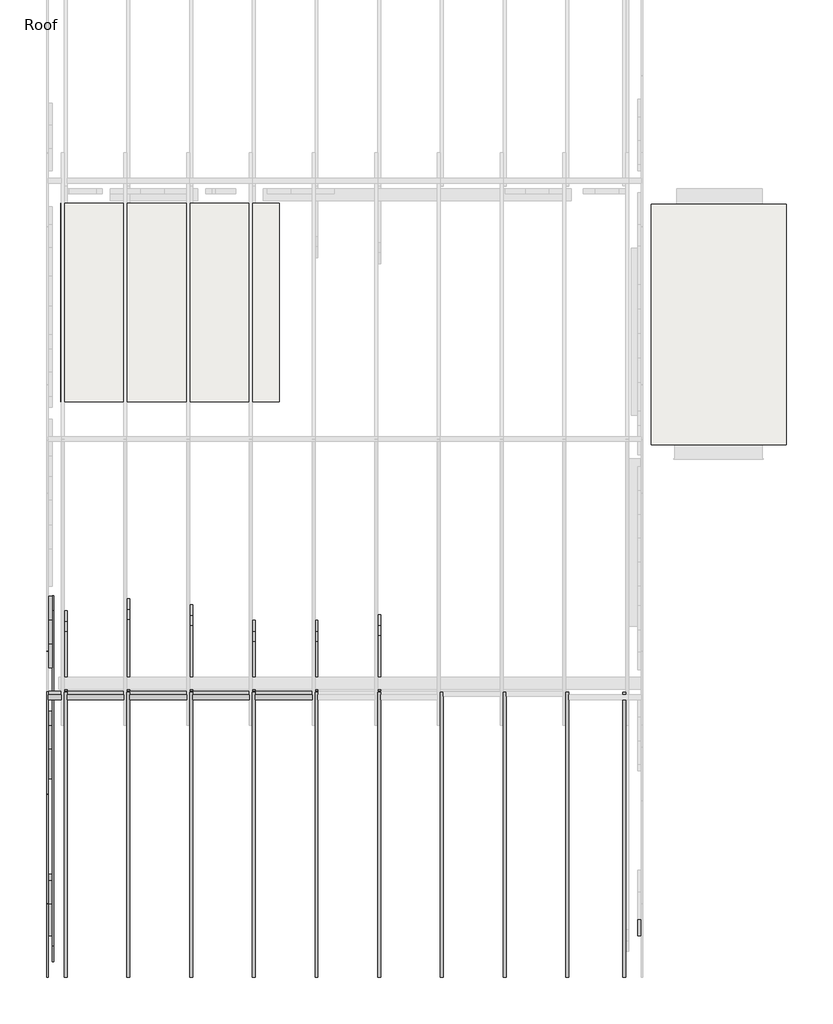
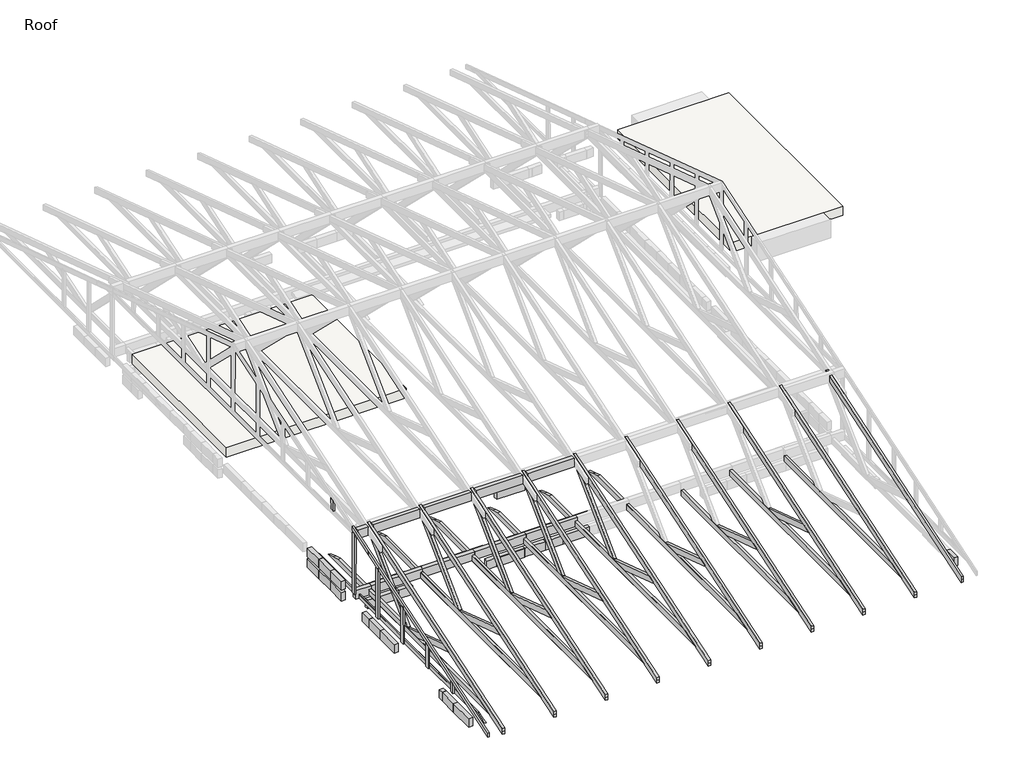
# One storey, part 1 of 5: 84 beams, 2 roofs.
"""IFC4 building model written with IfcOpenShell, lengths in millimetres."""

from ifc_helpers import new_model, si_unit, frame, origin, place, context, project, spatial, polyline, outline, extrude, faceted_brep, transform, mapped, element, save
from components import beam_51437148, beam_e763cc3c, beam_1adaeaea, beam_220cac48, beam_90ec22d7, experttrusspart_2_x_4_22083bb8, beam_02d80ba5, beam_1bebb228, beam_b49cdb40, beam_74c60bf1, beam_a2527db5, beam_e62cedd2, beam_8e5e3f5a, beam_69d239ac, beam_901ff6e2, beam_1c1e8c08, beam_fc46719c, beam_fde2ab11, beam_40d0c6fd, beam_1a8eef9e, beam_66fce4dd, beam_9d6aa0d6, beam_97ee1fa4, beam_51b55d0f, beam_aca249a6, beam_bb747b8e

model = new_model("IFC4")

# Units and contexts
model_context = context("Model", 3, world=origin())
ifc_project = project(units=[si_unit("LENGTHUNIT", "METRE", prefix="MILLI")], contexts=[model_context])

# Site, building, storey
site = spatial("IfcSite", under=ifc_project)
building = spatial("IfcBuilding", under=site)
storey = spatial("IfcBuildingStorey", under=building, Name="Roof", Elevation=4267.2)

# Beams
placement = place(None, origin())
element("IfcBeam", 1, ObjectType="BraceBeam : 1\" x 3\"", at=placement, inside=storey, context=model_context, shape_type="SweptSolid", body=[
    extrude(outline(polyline([(1168.5533714, 0.0), (1168.5533714, -63.5), (176.1684028, -63.5), (165.8055555, -31.75), (176.1684028, 0.0), (1168.5533714, 0.0)])), frame((-11532.8540766, -25190.9933406, 3689.5350943), z_axis=(1.0, 2.0901824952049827e-12, 0.0), x_axis=(0.0, 0.000999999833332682, -0.9999995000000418)), (0.0, 0.0, 1.0), 19.05),
])
element("IfcBeam", 2, ObjectType="BraceBeam : 1\" x 3\"", at=placement, inside=storey, context=model_context, shape_type="Brep", body=[
    faceted_brep([(-11513.8039672, -28842.1891964, 2355.771731), (-11532.8539672, -28842.1891964, 2355.771731), (-11532.8539672, -25190.8609334, 3547.5247057), (-11513.8039672, -25190.8609334, 3547.5247057), (-11532.8539672, -28842.1891964, 2389.1701007), (-11532.8539672, -28842.1891964, 2422.5684705), (-11532.8539672, -25190.8609334, 3614.3214452), (-11532.8539672, -25190.8609334, 3580.9230754), (-11513.8039672, -28842.1891964, 2422.5684705), (-11513.8039672, -25190.8609334, 3614.3214452), (-11513.8039672, -28842.1891964, 2389.1701007), (-11513.8039672, -25190.8609334, 3580.9230754)], [[[0, 1, 2, 3]], [[4, 5, 6, 7, 2, 1]], [[5, 8, 9, 6]], [[10, 0, 3, 11, 9, 8]], [[8, 5, 4, 1, 0, 10]], [[6, 9, 11, 3, 2, 7]]]),
])
element("IfcBeam", 3, ObjectType="BraceBeam : 1\" x 3\"", at=placement, inside=storey, context=model_context, shape_type="Brep", body=[
    faceted_brep([(-11443.9539672, -28639.6920583, 2438.4434705), (-11463.0039672, -28639.6920583, 2438.4434705), (-11463.0039672, -23960.8933557, 2438.4434705), (-11443.9539672, -23960.8933557, 2438.4434705), (-11463.0039672, -28542.4154625, 2470.1934705), (-11463.0039672, -28445.1388668, 2501.9434705), (-11463.0039672, -24155.4465472, 2501.9434705), (-11463.0039672, -24058.1699515, 2470.1934705), (-11443.9539672, -28445.1388668, 2501.9434705), (-11443.9539672, -24155.4465472, 2501.9434705), (-11443.9539672, -28542.4154625, 2470.1934705), (-11443.9539672, -24058.1699515, 2470.1934705)], [[[0, 1, 2, 3]], [[4, 5, 6, 7, 2, 1]], [[5, 8, 9, 6]], [[10, 0, 3, 11, 9, 8]], [[8, 5, 4, 1, 0, 10]], [[6, 9, 11, 3, 2, 7]]]),
    faceted_brep([(-11443.9539672, -28639.6920583, 2438.4434705), (-11463.0039672, -28639.6920583, 2438.4434705), (-11463.0039672, -25160.7763369, 2438.4434705), (-11443.9539672, -25160.7763369, 2438.4434705), (-11443.9539672, -28445.1388668, 2501.9434705), (-11463.0039672, -28445.1388668, 2501.9434705), (-11463.0039672, -28542.4154625, 2470.1934705), (-11443.9539672, -28542.4154625, 2470.1934705), (-11463.0039672, -25160.7763369, 2501.9434705), (-11443.9539672, -25160.7763369, 2501.9434705)], [[[0, 1, 2, 3]], [[4, 5, 6, 1, 0, 7]], [[6, 5, 8, 2, 1]], [[7, 0, 3, 9, 4]], [[5, 4, 9, 8]], [[3, 2, 8, 9]]]),
])
beam_shape = beam_51437148(model_context)
element("IfcBeam", 4, ObjectType="BraceBeam : 1\" x 3\"", at=placement, inside=storey, context=model_context, shape_type="MappedRepresentation", body=[
    mapped(beam_shape, transform((-11523.3290766, -24644.0985149, 3632.8478118), x_axis=(0.0, 0.01141734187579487, 0.9999348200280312), y_axis=(-1.0, 0.0, 0.0), z_axis=(0.0, -0.9999348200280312, 0.01141734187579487))),
])
beam_2_shape = beam_e763cc3c(model_context)
element("IfcBeam", 5, ObjectType="BraceBeam : 1\" x 3\"", at=placement, inside=storey, context=model_context, shape_type="MappedRepresentation", body=[
    mapped(beam_2_shape, transform((-11523.3289672, -25856.0890106, 2916.9482119), x_axis=(0.0, -0.0006656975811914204, 0.9999997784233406), y_axis=(1.0, 0.0, 0.0), z_axis=(0.0, 0.9999997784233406, 0.0006656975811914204))),
])
beam_3_shape = beam_1adaeaea(model_context)
element("IfcBeam", 6, ObjectType="BraceBeam : 1\" x 3\"", at=placement, inside=storey, context=model_context, shape_type="MappedRepresentation", body=[
    mapped(beam_3_shape, transform((-11523.3289672, -26528.2622172, 2807.1057512), x_axis=(0.0, -0.00356589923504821, 0.9999936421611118), y_axis=(1.0, 0.0, 0.0), z_axis=(0.0, 0.9999936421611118, 0.00356589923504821))),
])
beam_4_shape = beam_220cac48(model_context)
element("IfcBeam", 7, ObjectType="BraceBeam : 1\" x 3\"", at=placement, inside=storey, context=model_context, shape_type="MappedRepresentation", body=[
    mapped(beam_4_shape, transform((-11523.3289672, -27197.3036991, 2698.2854506), x_axis=(0.0, 0.0044995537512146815, 0.999989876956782), y_axis=(-1.0, 0.0, 0.0), z_axis=(0.0, -0.999989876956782, 0.0044995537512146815))),
])
beam_5_shape = beam_90ec22d7(model_context)
element("IfcBeam", 8, ObjectType="BraceBeam : 1\" x 3\"", at=placement, inside=storey, context=model_context, shape_type="MappedRepresentation", body=[
    mapped(beam_5_shape, transform((-11523.3289672, -27869.4769057, 2588.4429899), x_axis=(0.0, 0.0010344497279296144, 0.9999994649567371), y_axis=(-1.0, 0.0, 0.0), z_axis=(0.0, -0.9999994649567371, 0.0010344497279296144))),
])
element("IfcBeam", 9, ObjectType="ExpertTrussPart : 2 x 4", at=placement, inside=storey, context=model_context, shape_type="SweptSolid", body=[
    extrude(outline(polyline([(-24424.7508985, 2527.3434705), (-24288.5636645, 2482.8934705), (-24152.3764304, 2438.4434705), (-28507.0355222, 2438.4434705), (-28370.8482881, 2482.8934705), (-28234.6610541, 2527.3434705), (-24424.7508985, 2527.3434705)])), frame((-11308.6989672, 0.0, 0.0), z_axis=(1.0, 0.0, 0.0), x_axis=(0.0, 1.0, 0.0)), (0.0, 0.0, 1.0), 38.1),
    extrude(outline(polyline([(-25160.7763369, 2438.4434705), (-28507.0355222, 2438.4434705), (-28370.8482881, 2482.8934705), (-28234.6610541, 2527.3434705), (-25160.7763369, 2527.3434705), (-25160.7763369, 2438.4434705)])), frame((-11308.6989672, 0.0, 0.0), z_axis=(1.0, 0.0, 0.0), x_axis=(0.0, 1.0, 0.0)), (0.0, 0.0, 1.0), 38.1),
])
element("IfcBeam", 10, ObjectType="ExpertTrussPart : 2 x 4", at=placement, inside=storey, context=model_context, shape_type="SweptSolid", body=[
    extrude(outline(polyline([(-25364.2857159, 3455.8683395), (-25197.3557894, 3510.3524128), (-25197.3557894, 3494.8997017), (-26185.4983234, 2527.3434705), (-26294.428123, 2527.3434705), (-26296.112504, 2543.4546095), (-25364.2857159, 3455.8683395)])), frame((-11308.6989672, 0.0, 0.0), z_axis=(1.0, 0.0, 0.0), x_axis=(0.0, 1.0, 0.0)), (0.0, 0.0, 1.0), 38.1),
])
element("IfcBeam", 11, ObjectType="ExpertTrussPart : 2 x 4", at=placement, inside=storey, context=model_context, shape_type="SweptSolid", body=[
    extrude(outline(polyline([(-27261.0093615, 2845.1325646), (-26294.677913, 2529.7327168), (-26294.428123, 2527.3434705), (-26573.8730452, 2527.3434705), (-27404.2670497, 2798.3748469), (-27332.6382056, 2821.7537058), (-27261.0093615, 2845.1325646)])), frame((-11308.6989672, 0.0, 0.0), z_axis=(1.0, 0.0, 0.0), x_axis=(0.0, 1.0, 0.0)), (0.0, 0.0, 1.0), 38.1),
])
element("IfcBeam", 12, ObjectType="ExpertTrussPart : 2 x 4", at=placement, inside=storey, context=model_context, shape_type="SweptSolid", body=[
    extrude(outline(polyline([(-24272.3508985, 2527.3434705), (-24136.1636645, 2482.8934705), (-23999.9764304, 2438.4434705), (-28507.0355222, 2438.4434705), (-28370.8482881, 2482.8934705), (-28234.6610541, 2527.3434705), (-24272.3508985, 2527.3434705)])), frame((-10506.9056339, 0.0, 0.0), z_axis=(1.0, 0.0, 0.0), x_axis=(0.0, 1.0, 0.0)), (0.0, 0.0, 1.0), 38.1),
    extrude(outline(polyline([(-25160.7763369, 2438.4434705), (-28507.0355222, 2438.4434705), (-28370.8482881, 2482.8934705), (-28234.6610541, 2527.3434705), (-25160.7763369, 2527.3434705), (-25160.7763369, 2438.4434705)])), frame((-10506.9056339, 0.0, 0.0), z_axis=(1.0, 0.0, 0.0), x_axis=(0.0, 1.0, 0.0)), (0.0, 0.0, 1.0), 38.1),
])
element("IfcBeam", 13, ObjectType="ExpertTrussPart : 2 x 4", at=placement, inside=storey, context=model_context, shape_type="SweptSolid", body=[
    extrude(outline(polyline([(-25364.2857159, 3455.8683395), (-25197.3557894, 3510.3524128), (-25197.3557894, 3494.8997017), (-26185.4983234, 2527.3434705), (-26294.428123, 2527.3434705), (-26296.112504, 2543.4546095), (-25364.2857159, 3455.8683395)])), frame((-10506.9056339, 0.0, 0.0), z_axis=(1.0, 0.0, 0.0), x_axis=(0.0, 1.0, 0.0)), (0.0, 0.0, 1.0), 38.1),
])
element("IfcBeam", 14, ObjectType="ExpertTrussPart : 2 x 4", at=placement, inside=storey, context=model_context, shape_type="SweptSolid", body=[
    extrude(outline(polyline([(-27261.0093615, 2845.1325646), (-26294.677913, 2529.7327168), (-26294.428123, 2527.3434705), (-26573.8730452, 2527.3434705), (-27404.2670497, 2798.3748469), (-27332.6382056, 2821.7537058), (-27261.0093615, 2845.1325646)])), frame((-10506.9056339, 0.0, 0.0), z_axis=(1.0, 0.0, 0.0), x_axis=(0.0, 1.0, 0.0)), (0.0, 0.0, 1.0), 38.1),
])
element("IfcBeam", 15, ObjectType="ExpertTrussPart : 2 x 4", at=placement, inside=storey, context=model_context, shape_type="SweptSolid", body=[
    extrude(outline(polyline([(-24348.5508985, 2527.3434705), (-24212.3636645, 2482.8934705), (-24076.1764304, 2438.4434705), (-28507.0355222, 2438.4434705), (-28370.8482881, 2482.8934705), (-28234.6610541, 2527.3434705), (-24348.5508985, 2527.3434705)])), frame((-9705.1123005, 0.0, 0.0), z_axis=(1.0, 0.0, 0.0), x_axis=(0.0, 1.0, 0.0)), (0.0, 0.0, 1.0), 38.1),
    extrude(outline(polyline([(-25160.7763369, 2438.4434705), (-28507.0355222, 2438.4434705), (-28370.8482881, 2482.8934705), (-28234.6610541, 2527.3434705), (-25160.7763369, 2527.3434705), (-25160.7763369, 2438.4434705)])), frame((-9705.1123005, 0.0, 0.0), z_axis=(1.0, 0.0, 0.0), x_axis=(0.0, 1.0, 0.0)), (0.0, 0.0, 1.0), 38.1),
])
element("IfcBeam", 16, ObjectType="ExpertTrussPart : 2 x 4", at=placement, inside=storey, context=model_context, shape_type="SweptSolid", body=[
    extrude(outline(polyline([(-25364.2857159, 3455.8683395), (-25197.3557894, 3510.3524128), (-25197.3557894, 3494.8997017), (-26185.4983234, 2527.3434705), (-26294.428123, 2527.3434705), (-26296.112504, 2543.4546095), (-25364.2857159, 3455.8683395)])), frame((-9705.1123005, 0.0, 0.0), z_axis=(1.0, 0.0, 0.0), x_axis=(0.0, 1.0, 0.0)), (0.0, 0.0, 1.0), 38.1),
])
element("IfcBeam", 17, ObjectType="ExpertTrussPart : 2 x 4", at=placement, inside=storey, context=model_context, shape_type="SweptSolid", body=[
    extrude(outline(polyline([(-27261.0093615, 2845.1325646), (-26294.677913, 2529.7327168), (-26294.428123, 2527.3434705), (-26573.8730452, 2527.3434705), (-27404.2670497, 2798.3748469), (-27332.6382056, 2821.7537058), (-27261.0093615, 2845.1325646)])), frame((-9705.1123005, 0.0, 0.0), z_axis=(1.0, 0.0, 0.0), x_axis=(0.0, 1.0, 0.0)), (0.0, 0.0, 1.0), 38.1),
])
element("IfcBeam", 18, ObjectType="ExpertTrussPart : 2 x 4", at=placement, inside=storey, context=model_context, shape_type="SweptSolid", body=[
    extrude(outline(polyline([(-25364.2857159, 3455.8683395), (-25197.3557894, 3510.3524128), (-25197.3557894, 3494.8997017), (-26185.4983234, 2527.3434705), (-26294.428123, 2527.3434705), (-26296.112504, 2543.4546095), (-25364.2857159, 3455.8683395)])), frame((-8903.3189672, 0.0, 0.0), z_axis=(1.0, 0.0, 0.0), x_axis=(0.0, 1.0, 0.0)), (0.0, 0.0, 1.0), 38.1),
])
element("IfcBeam", 19, ObjectType="ExpertTrussPart : 2 x 4", at=placement, inside=storey, context=model_context, shape_type="SweptSolid", body=[
    extrude(outline(polyline([(-27261.0093615, 2845.1325646), (-26294.677913, 2529.7327168), (-26294.428123, 2527.3434705), (-26573.8730452, 2527.3434705), (-27404.2670497, 2798.3748469), (-27332.6382056, 2821.7537058), (-27261.0093615, 2845.1325646)])), frame((-8903.3189672, 0.0, 0.0), z_axis=(1.0, 0.0, 0.0), x_axis=(0.0, 1.0, 0.0)), (0.0, 0.0, 1.0), 38.1),
])
element("IfcBeam", 20, ObjectType="ExpertTrussPart : 2 x 4", at=placement, inside=storey, context=model_context, shape_type="SweptSolid", body=[
    extrude(outline(polyline([(-24551.7508985, 2527.3434705), (-24415.5636645, 2482.8934705), (-24279.3764304, 2438.4434705), (-28507.0355222, 2438.4434705), (-28370.8482881, 2482.8934705), (-28234.6610541, 2527.3434705), (-24551.7508985, 2527.3434705)])), frame((-8101.5256339, 0.0, 0.0), z_axis=(1.0, 0.0, 0.0), x_axis=(0.0, 1.0, 0.0)), (0.0, 0.0, 1.0), 38.1),
    extrude(outline(polyline([(-25160.7763369, 2438.4434705), (-28507.0355222, 2438.4434705), (-28370.8482881, 2482.8934705), (-28234.6610541, 2527.3434705), (-25160.7763369, 2527.3434705), (-25160.7763369, 2438.4434705)])), frame((-8101.5256339, 0.0, 0.0), z_axis=(1.0, 0.0, 0.0), x_axis=(0.0, 1.0, 0.0)), (0.0, 0.0, 1.0), 38.1),
])
element("IfcBeam", 21, ObjectType="ExpertTrussPart : 2 x 4", at=placement, inside=storey, context=model_context, shape_type="SweptSolid", body=[
    extrude(outline(polyline([(-25364.2857159, 3455.8683395), (-25197.3557894, 3510.3524128), (-25197.3557894, 3494.8997017), (-26185.4983234, 2527.3434705), (-26294.428123, 2527.3434705), (-26296.112504, 2543.4546095), (-25364.2857159, 3455.8683395)])), frame((-8101.5256339, 0.0, 0.0), z_axis=(1.0, 0.0, 0.0), x_axis=(0.0, 1.0, 0.0)), (0.0, 0.0, 1.0), 38.1),
])
element("IfcBeam", 22, ObjectType="ExpertTrussPart : 2 x 4", at=placement, inside=storey, context=model_context, shape_type="SweptSolid", body=[
    extrude(outline(polyline([(-27261.0093615, 2845.1325646), (-26294.677913, 2529.7327168), (-26294.428123, 2527.3434705), (-26573.8730452, 2527.3434705), (-27404.2670497, 2798.3748469), (-27332.6382056, 2821.7537058), (-27261.0093615, 2845.1325646)])), frame((-8101.5256339, 0.0, 0.0), z_axis=(1.0, 0.0, 0.0), x_axis=(0.0, 1.0, 0.0)), (0.0, 0.0, 1.0), 38.1),
])
element("IfcBeam", 23, ObjectType="ExpertTrussPart : 2 x 4", at=placement, inside=storey, context=model_context, shape_type="SweptSolid", body=[
    extrude(outline(polyline([(-24475.5508985, 2527.3434705), (-24339.3636645, 2482.8934705), (-24203.1764304, 2438.4434705), (-28507.0355222, 2438.4434705), (-28370.8482881, 2482.8934705), (-28234.6610541, 2527.3434705), (-24475.5508985, 2527.3434705)])), frame((-7299.7323005, 0.0, 0.0), z_axis=(1.0, 0.0, 0.0), x_axis=(0.0, 1.0, 0.0)), (0.0, 0.0, 1.0), 38.1),
    extrude(outline(polyline([(-25160.7763369, 2438.4434705), (-28507.0355222, 2438.4434705), (-28370.8482881, 2482.8934705), (-28234.6610541, 2527.3434705), (-25160.7763369, 2527.3434705), (-25160.7763369, 2438.4434705)])), frame((-7299.7323005, 0.0, 0.0), z_axis=(1.0, 0.0, 0.0), x_axis=(0.0, 1.0, 0.0)), (0.0, 0.0, 1.0), 38.1),
])
element("IfcBeam", 24, ObjectType="ExpertTrussPart : 2 x 4", at=placement, inside=storey, context=model_context, shape_type="SweptSolid", body=[
    extrude(outline(polyline([(-27261.0093615, 2845.1325646), (-26294.677913, 2529.7327168), (-26294.428123, 2527.3434705), (-26573.8730452, 2527.3434705), (-27404.2670497, 2798.3748469), (-27332.6382056, 2821.7537058), (-27261.0093615, 2845.1325646)])), frame((-7299.7323005, 0.0, 0.0), z_axis=(1.0, 0.0, 0.0), x_axis=(0.0, 1.0, 0.0)), (0.0, 0.0, 1.0), 38.1),
])
element("IfcBeam", 25, ObjectType="ExpertTrussPart : 2 x 4", at=placement, inside=storey, context=model_context, shape_type="SweptSolid", body=[
    extrude(outline(polyline([(-25329.4340251, 2527.3434705), (-25329.4340251, 2482.8934705), (-25329.4340251, 2438.4434705), (-28507.0355222, 2438.4434705), (-28370.8482881, 2482.8934705), (-28234.6610541, 2527.3434705), (-25329.4340251, 2527.3434705)])), frame((-6497.9389672, 0.0, 0.0), z_axis=(1.0, 0.0, 0.0), x_axis=(0.0, 1.0, 0.0)), (0.0, 0.0, 1.0), 38.1),
])
element("IfcBeam", 26, ObjectType="ExpertTrussPart : 2 x 4", at=placement, inside=storey, context=model_context, shape_type="SweptSolid", body=[
    extrude(outline(polyline([(-27261.0093615, 2845.1325646), (-26294.677913, 2529.7327168), (-26294.428123, 2527.3434705), (-26573.8730452, 2527.3434705), (-27404.2670497, 2798.3748469), (-27332.6382056, 2821.7537058), (-27261.0093615, 2845.1325646)])), frame((-6497.9389672, 0.0, 0.0), z_axis=(1.0, 0.0, 0.0), x_axis=(0.0, 1.0, 0.0)), (0.0, 0.0, 1.0), 38.1),
])
element("IfcBeam", 27, ObjectType="ExpertTrussPart : 2 x 4", at=placement, inside=storey, context=model_context, shape_type="SweptSolid", body=[
    extrude(outline(polyline([(-25196.6136645, 2527.3434705), (-25196.6136645, 2482.8934705), (-25196.6136645, 2438.4434705), (-28507.0355222, 2438.4434705), (-28370.8482881, 2482.8934705), (-28234.6610541, 2527.3434705), (-25196.6136645, 2527.3434705)])), frame((-5696.1456339, 0.0, 0.0), z_axis=(1.0, 0.0, 0.0), x_axis=(0.0, 1.0, 0.0)), (0.0, 0.0, 1.0), 38.1),
])
element("IfcBeam", 28, ObjectType="ExpertTrussPart : 2 x 4", at=placement, inside=storey, context=model_context, shape_type="SweptSolid", body=[
    extrude(outline(polyline([(-27261.0093615, 2845.1325646), (-26294.677913, 2529.7327168), (-26294.428123, 2527.3434705), (-26573.8730452, 2527.3434705), (-27404.2670497, 2798.3748469), (-27332.6382056, 2821.7537058), (-27261.0093615, 2845.1325646)])), frame((-5696.1456339, 0.0, 0.0), z_axis=(1.0, 0.0, 0.0), x_axis=(0.0, 1.0, 0.0)), (0.0, 0.0, 1.0), 38.1),
])
element("IfcBeam", 29, ObjectType="ExpertTrussPart : 2 x 4", at=placement, inside=storey, context=model_context, shape_type="SweptSolid", body=[
    extrude(outline(polyline([(-25329.4340251, 2527.3434705), (-25329.4340251, 2482.8934705), (-25329.4340251, 2438.4434705), (-28507.0355222, 2438.4434705), (-28370.8482881, 2482.8934705), (-28234.6610541, 2527.3434705), (-25329.4340251, 2527.3434705)])), frame((-4894.3523005, 0.0, 0.0), z_axis=(1.0, 0.0, 0.0), x_axis=(0.0, 1.0, 0.0)), (0.0, 0.0, 1.0), 38.1),
])
element("IfcBeam", 30, ObjectType="ExpertTrussPart : 2 x 4", at=placement, inside=storey, context=model_context, shape_type="SweptSolid", body=[
    extrude(outline(polyline([(-24551.7508985, 2527.3434705), (-24415.5636645, 2482.8934705), (-24279.3764304, 2438.4434705), (-28507.0355222, 2438.4434705), (-28370.8482881, 2482.8934705), (-28234.6610541, 2527.3434705), (-24551.7508985, 2527.3434705)])), frame((-8903.3189672, 0.0, 0.0), z_axis=(1.0, 0.0, 0.0), x_axis=(0.0, 1.0, 0.0)), (0.0, 0.0, 1.0), 38.1),
    extrude(outline(polyline([(-25160.7763369, 2438.4434705), (-28507.0355222, 2438.4434705), (-28370.8482881, 2482.8934705), (-28234.6610541, 2527.3434705), (-25160.7763369, 2527.3434705), (-25160.7763369, 2438.4434705)])), frame((-8903.3189672, 0.0, 0.0), z_axis=(1.0, 0.0, 0.0), x_axis=(0.0, 1.0, 0.0)), (0.0, 0.0, 1.0), 38.1),
])
experttrusspart_2_x_4_shape = experttrusspart_2_x_4_22083bb8(model_context)
element("IfcBeam", 31, ObjectType="ExpertTrussPart : 2 x 4", at=placement, inside=storey, context=model_context, shape_type="MappedRepresentation", body=[
    mapped(experttrusspart_2_x_4_shape, transform((-11289.6489672, -27005.9805455, 2920.0373882), x_axis=(0.0, -0.950645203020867, -0.31028003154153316), y_axis=(1.0000000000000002, 0.0, 0.0), z_axis=(0.0, -0.31028003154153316, 0.950645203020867))),
])
element("IfcBeam", 32, ObjectType="ExpertTrussPart : 2 x 4", at=placement, inside=storey, context=model_context, shape_type="MappedRepresentation", body=[
    mapped(experttrusspart_2_x_4_shape, transform((-10487.8556339, -27005.9805455, 2920.0373882), x_axis=(0.0, -0.950645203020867, -0.31028003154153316), y_axis=(1.0000000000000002, 0.0, 0.0), z_axis=(0.0, -0.31028003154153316, 0.950645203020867))),
])
element("IfcBeam", 33, ObjectType="ExpertTrussPart : 2 x 4", at=placement, inside=storey, context=model_context, shape_type="MappedRepresentation", body=[
    mapped(experttrusspart_2_x_4_shape, transform((-9686.0623005, -27005.9805455, 2920.0373882), x_axis=(0.0, -0.950645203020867, -0.31028003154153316), y_axis=(1.0000000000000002, 0.0, 0.0), z_axis=(0.0, -0.31028003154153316, 0.950645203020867))),
])
element("IfcBeam", 34, ObjectType="ExpertTrussPart : 2 x 4", at=placement, inside=storey, context=model_context, shape_type="MappedRepresentation", body=[
    mapped(experttrusspart_2_x_4_shape, transform((-8884.2689672, -27005.9805455, 2920.0373882), x_axis=(0.0, -0.950645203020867, -0.31028003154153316), y_axis=(1.0000000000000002, 0.0, 0.0), z_axis=(0.0, -0.31028003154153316, 0.950645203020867))),
])
element("IfcBeam", 35, ObjectType="ExpertTrussPart : 2 x 4", at=placement, inside=storey, context=model_context, shape_type="MappedRepresentation", body=[
    mapped(experttrusspart_2_x_4_shape, transform((-8082.4756339, -27005.9805455, 2920.0373882), x_axis=(0.0, -0.950645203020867, -0.31028003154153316), y_axis=(1.0000000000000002, 0.0, 0.0), z_axis=(0.0, -0.31028003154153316, 0.950645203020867))),
])
element("IfcBeam", 36, ObjectType="ExpertTrussPart : 2 x 4", at=placement, inside=storey, context=model_context, shape_type="MappedRepresentation", body=[
    mapped(experttrusspart_2_x_4_shape, transform((-7280.6823005, -27005.9805455, 2920.0373882), x_axis=(0.0, -0.950645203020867, -0.31028003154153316), y_axis=(1.0000000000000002, 0.0, 0.0), z_axis=(0.0, -0.31028003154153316, 0.950645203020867))),
])
element("IfcBeam", 37, ObjectType="ExpertTrussPart : 2 x 4", at=placement, inside=storey, context=model_context, shape_type="MappedRepresentation", body=[
    mapped(experttrusspart_2_x_4_shape, transform((-6478.8889672, -27005.9805455, 2920.0373882), x_axis=(0.0, -0.950645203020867, -0.31028003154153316), y_axis=(1.0000000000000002, 0.0, 0.0), z_axis=(0.0, -0.31028003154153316, 0.950645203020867))),
])
element("IfcBeam", 38, ObjectType="ExpertTrussPart : 2 x 4", at=placement, inside=storey, context=model_context, shape_type="MappedRepresentation", body=[
    mapped(experttrusspart_2_x_4_shape, transform((-5677.0956339, -27005.9805455, 2920.0373882), x_axis=(0.0, -0.950645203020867, -0.31028003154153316), y_axis=(1.0000000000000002, 0.0, 0.0), z_axis=(0.0, -0.31028003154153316, 0.950645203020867))),
])
element("IfcBeam", 39, ObjectType="ExpertTrussPart : 2 x 4", at=placement, inside=storey, context=model_context, shape_type="MappedRepresentation", body=[
    mapped(experttrusspart_2_x_4_shape, transform((-4875.3023005, -27005.9805455, 2920.0373882), x_axis=(0.0, -0.950645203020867, -0.31028003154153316), y_axis=(1.0000000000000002, 0.0, 0.0), z_axis=(0.0, -0.31028003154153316, 0.950645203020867))),
])
element("IfcBeam", 40, ObjectType="ExpertTrussPart : 2 x 4", at=placement, inside=storey, context=model_context, shape_type="MappedRepresentation", body=[
    mapped(experttrusspart_2_x_4_shape, transform((-4149.709186, -27005.9805455, 2920.0373882), x_axis=(0.0, -0.950645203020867, -0.31028003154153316), y_axis=(1.0000000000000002, 0.0, 0.0), z_axis=(0.0, -0.31028003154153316, 0.950645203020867))),
])
element("IfcBeam", 41, ObjectType="WallPlates : 6\" x 3\"", at=placement, inside=storey, context=model_context, shape_type="SweptSolid", body=[
    extrude(outline(polyline([(-9869.5513307, -25157.6013369), (-9869.5513307, -25094.1013369), (-9446.8790766, -25094.1013369), (-9446.8790766, -25157.6013369), (-9869.5513307, -25157.6013369)])), frame((0.0, 0.0, 2368.55), z_axis=(0.0, 0.0, 1.0), x_axis=(1.0, 0.0, 0.0)), (0.0, 0.0, 1.0), 139.7),
    extrude(outline(polyline([(-9819.4124099, -25094.1013369), (-9446.8790766, -25094.1013369), (-9446.8790766, -25157.6013369), (-9819.4124099, -25157.6013369), (-9819.4124099, -25094.1013369)])), frame((0.0, 0.0, 2368.55), z_axis=(0.0, 0.0, 1.0), x_axis=(1.0, 0.0, 0.0)), (0.0, 0.0, 1.0), 139.7),
])
beam_6_shape = beam_02d80ba5(model_context)
element("IfcBeam", 42, ObjectType="WallPlates : 6\" x 3\"", at=placement, inside=storey, context=model_context, shape_type="MappedRepresentation", body=[
    mapped(beam_6_shape, transform((-9050.6340766, -25125.8513369, 2438.4), x_axis=(1.0000000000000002, 0.0, 0.0), y_axis=(0.0, 0.0, -1.0000000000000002), z_axis=(0.0, 1.0000000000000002, 0.0))),
])
element("IfcBeam", 43, ObjectType="WallPlates : 6\" x 3\"", at=placement, inside=storey, context=model_context, shape_type="MappedRepresentation", body=[
    mapped(beam_6_shape, transform((-9050.6340766, -25125.8513369, 2209.8), x_axis=(1.0000000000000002, 0.0, 0.0), y_axis=(0.0, 0.0, -1.0000000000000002), z_axis=(0.0, 1.0000000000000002, 0.0))),
])
beam_7_shape = beam_1bebb228(model_context)
element("IfcBeam", 44, ObjectType="WallPlates : 6\" x 3\"", at=placement, inside=storey, context=model_context, shape_type="MappedRepresentation", body=[
    mapped(beam_7_shape, transform((-8671.3274099, -25125.8513369, 2438.4), x_axis=(1.0000000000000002, 0.0, 0.0), y_axis=(0.0, 0.0, -1.0000000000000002), z_axis=(0.0, 1.0000000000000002, 0.0))),
])
element("IfcBeam", 45, ObjectType="WallPlates : 6\" x 3\"", at=placement, inside=storey, context=model_context, shape_type="MappedRepresentation", body=[
    mapped(beam_7_shape, transform((-8671.3274099, -25125.8513369, 2209.8), x_axis=(1.0000000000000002, 0.0, 0.0), y_axis=(0.0, 0.0, -1.0000000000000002), z_axis=(0.0, 1.0000000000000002, 0.0))),
])
beam_8_shape = beam_b49cdb40(model_context)
element("IfcBeam", 46, ObjectType="WallPlates : 6\" x 3\"", at=placement, inside=storey, context=model_context, shape_type="MappedRepresentation", body=[
    mapped(beam_8_shape, transform((-8374.9990766, -25125.8513369, 2438.4), x_axis=(1.0000000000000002, 0.0, 0.0), y_axis=(0.0, 0.0, -1.0000000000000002), z_axis=(0.0, 1.0000000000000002, 0.0))),
])
element("IfcBeam", 47, ObjectType="WallPlates : 6\" x 3\"", at=placement, inside=storey, context=model_context, shape_type="MappedRepresentation", body=[
    mapped(beam_8_shape, transform((-8374.9990766, -25125.8513369, 2209.8), x_axis=(1.0000000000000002, 0.0, 0.0), y_axis=(0.0, 0.0, -1.0000000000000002), z_axis=(0.0, 1.0000000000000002, 0.0))),
])
beam_9_shape = beam_74c60bf1(model_context)
element("IfcBeam", 48, ObjectType="WallPlates : 6\" x 3\"", at=placement, inside=storey, context=model_context, shape_type="MappedRepresentation", body=[
    mapped(beam_9_shape, transform((-8502.4223005, -25262.3763369, 3534.0178481), x_axis=(-1.0000000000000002, 0.0, 0.0), y_axis=(0.0, 0.0, -1.0000000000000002), z_axis=(0.0, -1.0000000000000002, 0.0))),
])
element("IfcBeam", 49, ObjectType="WallPlates : 6\" x 3\"", at=placement, inside=storey, context=model_context, shape_type="MappedRepresentation", body=[
    mapped(beam_9_shape, transform((-9304.2156339, -25262.3763369, 3534.0178481), x_axis=(-1.0000000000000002, 0.0, 0.0), y_axis=(0.0, 0.0, -1.0000000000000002), z_axis=(0.0, -1.0000000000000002, 0.0))),
])
element("IfcBeam", 50, ObjectType="WallPlates : 6\" x 3\"", at=placement, inside=storey, context=model_context, shape_type="MappedRepresentation", body=[
    mapped(beam_9_shape, transform((-10106.0089672, -25262.3763369, 3534.0178481), x_axis=(-1.0000000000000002, 0.0, 0.0), y_axis=(0.0, 0.0, -1.0000000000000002), z_axis=(0.0, -1.0000000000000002, 0.0))),
])
element("IfcBeam", 51, ObjectType="WallPlates : 6\" x 3\"", at=placement, inside=storey, context=model_context, shape_type="MappedRepresentation", body=[
    mapped(beam_9_shape, transform((-10907.8023005, -25262.3763369, 3534.0178481), x_axis=(-1.0000000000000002, 0.0, 0.0), y_axis=(0.0, 0.0, -1.0000000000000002), z_axis=(0.0, -1.0000000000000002, 0.0))),
])
beam_10_shape = beam_a2527db5(model_context)
element("IfcBeam", 52, ObjectType="WallPlates : 6\" x 3\"", at=placement, inside=storey, context=model_context, shape_type="MappedRepresentation", body=[
    mapped(beam_10_shape, transform((-8464.3223005, -25217.9263369, 2508.2934705), x_axis=(-1.0000000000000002, 0.0, 0.0), y_axis=(0.0, 0.0, -1.0000000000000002), z_axis=(0.0, -1.0000000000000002, 0.0))),
])
element("IfcBeam", 53, ObjectType="WallPlates : 6\" x 3\"", at=placement, inside=storey, context=model_context, shape_type="MappedRepresentation", body=[
    mapped(beam_10_shape, transform((-9266.1156339, -25217.9263369, 2508.2934705), x_axis=(-1.0000000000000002, 0.0, 0.0), y_axis=(0.0, 0.0, -1.0000000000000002), z_axis=(0.0, -1.0000000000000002, 0.0))),
])
element("IfcBeam", 54, ObjectType="WallPlates : 6\" x 3\"", at=placement, inside=storey, context=model_context, shape_type="MappedRepresentation", body=[
    mapped(beam_10_shape, transform((-10067.9089672, -25217.9263369, 2508.2934705), x_axis=(-1.0000000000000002, 0.0, 0.0), y_axis=(0.0, 0.0, -1.0000000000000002), z_axis=(0.0, -1.0000000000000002, 0.0))),
])
element("IfcBeam", 55, ObjectType="WallPlates : 6\" x 3\"", at=placement, inside=storey, context=model_context, shape_type="MappedRepresentation", body=[
    mapped(beam_10_shape, transform((-10869.7023005, -25217.9263369, 2508.2934705), x_axis=(-1.0000000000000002, 0.0, 0.0), y_axis=(0.0, 0.0, -1.0000000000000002), z_axis=(0.0, -1.0000000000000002, 0.0))),
])
element("IfcBeam", 56, ObjectType="WallPlates : 6\" x 3\"", at=placement, inside=storey, context=model_context, shape_type="MappedRepresentation", body=[
    mapped(beam_6_shape, transform((-9050.6340766, -25125.8513369, 2203.45), x_axis=(1.0000000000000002, 0.0, 0.0), y_axis=(0.0, 0.0, -1.0000000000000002), z_axis=(0.0, 1.0000000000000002, 0.0))),
])
element("IfcBeam", 57, ObjectType="WallPlates : 6\" x 3\"", at=placement, inside=storey, context=model_context, shape_type="MappedRepresentation", body=[
    mapped(beam_6_shape, transform((-9050.6340766, -25125.8513369, 3311.006975), x_axis=(1.0000000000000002, 0.0, 0.0), y_axis=(0.0, 0.0, -1.0000000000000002), z_axis=(0.0, 1.0000000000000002, 0.0))),
])
beam_11_shape = beam_e62cedd2(model_context)
element("IfcBeam", 58, ObjectType="WallPlates : 6\" x 3\"", at=placement, inside=storey, context=model_context, shape_type="MappedRepresentation", body=[
    mapped(beam_11_shape, transform((-11494.7540766, -28107.1813369, 2266.95), x_axis=(0.0, -1.0000000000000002, 0.0), y_axis=(0.0, 0.0, -1.0000000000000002), z_axis=(1.0000000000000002, 0.0, 0.0))),
])
beam_12_shape = beam_8e5e3f5a(model_context)
element("IfcBeam", 59, ObjectType="WallPlates : 6\" x 3\"", at=placement, inside=storey, context=model_context, shape_type="MappedRepresentation", body=[
    mapped(beam_12_shape, transform((-11430.3015766, -25262.3763369, 3534.0178481), x_axis=(-1.0000000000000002, 0.0, 0.0), y_axis=(0.0, 0.0, -1.0000000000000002), z_axis=(0.0, -1.0000000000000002, 0.0))),
])
beam_13_shape = beam_69d239ac(model_context)
element("IfcBeam", 60, ObjectType="WallPlates : 6\" x 3\"", at=placement, inside=storey, context=model_context, shape_type="MappedRepresentation", body=[
    mapped(beam_13_shape, transform((-11392.2014672, -25217.9263369, 2508.2934705), x_axis=(-1.0000000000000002, 0.0, 0.0), y_axis=(0.0, 0.0, -1.0000000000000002), z_axis=(0.0, -1.0000000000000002, 0.0))),
])
beam_14_shape = beam_901ff6e2(model_context)
element("IfcBeam", 61, ObjectType="WallPlates : 6\" x 3\"", at=placement, inside=storey, context=model_context, shape_type="MappedRepresentation", body=[
    mapped(beam_14_shape, transform((-11494.7540766, -27561.0613369, 2266.95), x_axis=(0.0, -1.0000000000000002, 0.0), y_axis=(0.0, 0.0, -1.0000000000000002), z_axis=(1.0000000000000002, 0.0, 0.0))),
])
beam_15_shape = beam_1c1e8c08(model_context)
element("IfcBeam", 62, ObjectType="WallPlates : 6\" x 3\"", at=placement, inside=storey, context=model_context, shape_type="MappedRepresentation", body=[
    mapped(beam_15_shape, transform((-8030.4082433, -25125.8513369, 2438.4), x_axis=(1.0000000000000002, 0.0, 0.0), y_axis=(0.0, 0.0, -1.0000000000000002), z_axis=(0.0, 1.0000000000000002, 0.0))),
])
element("IfcBeam", 63, ObjectType="WallPlates : 6\" x 3\"", at=placement, inside=storey, context=model_context, shape_type="MappedRepresentation", body=[
    mapped(beam_15_shape, transform((-8030.4082433, -25125.8513369, 2209.8), x_axis=(1.0000000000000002, 0.0, 0.0), y_axis=(0.0, 0.0, -1.0000000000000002), z_axis=(0.0, 1.0000000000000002, 0.0))),
])
beam_16_shape = beam_fc46719c(model_context)
element("IfcBeam", 64, ObjectType="WallPlates : 6\" x 3\"", at=placement, inside=storey, context=model_context, shape_type="MappedRepresentation", body=[
    mapped(beam_16_shape, transform((-10685.1290766, -25125.8513369, 2209.8), x_axis=(1.0000000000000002, 0.0, 0.0), y_axis=(0.0, 0.0, -1.0000000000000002), z_axis=(0.0, 1.0000000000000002, 0.0))),
])
beam_17_shape = beam_fde2ab11(model_context)
element("IfcBeam", 65, ObjectType="WallPlates : 6\" x 3\"", at=placement, inside=storey, context=model_context, shape_type="MappedRepresentation", body=[
    mapped(beam_17_shape, transform((-9345.2790766, -25125.8513369, 2209.8), x_axis=(1.0000000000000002, 0.0, 0.0), y_axis=(0.0, 0.0, -1.0000000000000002), z_axis=(0.0, 1.0000000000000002, 0.0))),
])
beam_18_shape = beam_40d0c6fd(model_context)
element("IfcBeam", 66, ObjectType="WallPlates : 6\" x 3\"", at=placement, inside=storey, context=model_context, shape_type="MappedRepresentation", body=[
    mapped(beam_18_shape, transform((-10026.5152036, -25125.8513369, 2438.4), x_axis=(1.0000000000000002, 0.0, 0.0), y_axis=(0.0, 0.0, -1.0000000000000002), z_axis=(0.0, 1.0000000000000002, 0.0))),
])
beam_19_shape = beam_1a8eef9e(model_context)
element("IfcBeam", 67, ObjectType="WallPlates : 6\" x 3\"", at=placement, inside=storey, context=model_context, shape_type="MappedRepresentation", body=[
    mapped(beam_19_shape, transform((-10373.9790766, -25125.8513369, 2438.4), x_axis=(1.0000000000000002, 0.0, 0.0), y_axis=(0.0, 0.0, -1.0000000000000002), z_axis=(0.0, 1.0000000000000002, 0.0))),
])
beam_20_shape = beam_66fce4dd(model_context)
element("IfcBeam", 68, ObjectType="WallPlates : 6\" x 3\"", at=placement, inside=storey, context=model_context, shape_type="MappedRepresentation", body=[
    mapped(beam_20_shape, transform((-10729.5840639, -25125.8513369, 2438.4), x_axis=(1.0000000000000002, 0.0, 0.0), y_axis=(0.0, 0.0, -1.0000000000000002), z_axis=(0.0, 1.0000000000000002, 0.0))),
])
beam_21_shape = beam_9d6aa0d6(model_context)
element("IfcBeam", 69, ObjectType="WallPlates : 6\" x 3\"", at=placement, inside=storey, context=model_context, shape_type="MappedRepresentation", body=[
    mapped(beam_21_shape, transform((-11494.7540766, -24424.1763369, 2438.4), x_axis=(0.0, -1.0000000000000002, 0.0), y_axis=(0.0, 0.0, -1.0000000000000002), z_axis=(1.0000000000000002, 0.0, 0.0))),
])
element("IfcBeam", 70, ObjectType="WallPlates : 6\" x 3\"", at=placement, inside=storey, context=model_context, shape_type="MappedRepresentation", body=[
    mapped(beam_21_shape, transform((-10945.4790766, -25125.8513369, 2438.4), x_axis=(1.0000000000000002, 0.0, 0.0), y_axis=(0.0, 0.0, -1.0000000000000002), z_axis=(0.0, 1.0000000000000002, 0.0))),
])
element("IfcBeam", 71, ObjectType="WallPlates : 6\" x 3\"", at=placement, inside=storey, context=model_context, shape_type="MappedRepresentation", body=[
    mapped(beam_21_shape, transform((-11494.7540766, -24424.1763369, 2260.6), x_axis=(0.0, -1.0000000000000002, 0.0), y_axis=(0.0, 0.0, -1.0000000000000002), z_axis=(1.0000000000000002, 0.0, 0.0))),
])
element("IfcBeam", 72, ObjectType="WallPlates : 6\" x 3\"", at=placement, inside=storey, context=model_context, shape_type="MappedRepresentation", body=[
    mapped(beam_21_shape, transform((-11494.7540766, -25770.3763369, 2266.95), x_axis=(0.0, -1.0000000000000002, 0.0), y_axis=(0.0, 0.0, -1.0000000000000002), z_axis=(1.0000000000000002, 0.0, 0.0))),
])
element("IfcBeam", 73, ObjectType="WallPlates : 6\" x 3\"", at=placement, inside=storey, context=model_context, shape_type="MappedRepresentation", body=[
    mapped(beam_21_shape, transform((-11494.7540766, -27751.5763369, 2266.95), x_axis=(0.0, -1.0000000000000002, 0.0), y_axis=(0.0, 0.0, -1.0000000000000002), z_axis=(1.0000000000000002, 0.0, 0.0))),
])
element("IfcBeam", 74, ObjectType="WallPlates : 6\" x 3\"", at=placement, inside=storey, context=model_context, shape_type="MappedRepresentation", body=[
    mapped(beam_21_shape, transform((-10945.4790766, -25125.8513369, 2209.8), x_axis=(1.0000000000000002, 0.0, 0.0), y_axis=(0.0, 0.0, -1.0000000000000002), z_axis=(0.0, 1.0000000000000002, 0.0))),
])
beam_22_shape = beam_97ee1fa4(model_context)
element("IfcBeam", 75, ObjectType="WallPlates : 6\" x 3\"", at=placement, inside=storey, context=model_context, shape_type="MappedRepresentation", body=[
    mapped(beam_22_shape, transform((-9307.1790766, -25125.8513369, 2438.4), x_axis=(1.0000000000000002, 0.0, 0.0), y_axis=(0.0, 0.0, -1.0000000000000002), z_axis=(0.0, 1.0000000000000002, 0.0))),
])
beam_23_shape = beam_51b55d0f(model_context)
element("IfcBeam", 76, ObjectType="WallPlates : 6\" x 3\"", at=placement, inside=storey, context=model_context, shape_type="MappedRepresentation", body=[
    mapped(beam_23_shape, transform((-11186.7740766, -25125.8513369, 2438.4), x_axis=(1.0000000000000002, 0.0, 0.0), y_axis=(0.0, 0.0, -1.0000000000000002), z_axis=(0.0, 1.0000000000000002, 0.0))),
])
element("IfcBeam", 77, ObjectType="WallPlates : 6\" x 3\"", at=placement, inside=storey, context=model_context, shape_type="MappedRepresentation", body=[
    mapped(beam_23_shape, transform((-11494.7540766, -25529.0813369, 2266.95), x_axis=(0.0, -1.0000000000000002, 0.0), y_axis=(0.0, 0.0, -1.0000000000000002), z_axis=(1.0000000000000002, 0.0, 0.0))),
])
element("IfcBeam", 78, ObjectType="WallPlates : 6\" x 3\"", at=placement, inside=storey, context=model_context, shape_type="MappedRepresentation", body=[
    mapped(beam_23_shape, transform((-11186.7740766, -25125.8513369, 2209.8), x_axis=(1.0000000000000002, 0.0, 0.0), y_axis=(0.0, 0.0, -1.0000000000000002), z_axis=(0.0, 1.0000000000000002, 0.0))),
])
element("IfcBeam", 79, ObjectType="WallPlates : 6\" x 3\"", at=placement, inside=storey, context=model_context, shape_type="MappedRepresentation", body=[
    mapped(beam_21_shape, transform((-11494.7540766, -24728.9763369, 2438.4), x_axis=(0.0, -1.0000000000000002, 0.0), y_axis=(0.0, 0.0, -1.0000000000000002), z_axis=(1.0000000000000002, 0.0, 0.0))),
])
element("IfcBeam", 80, ObjectType="WallPlates : 6\" x 3\"", at=placement, inside=storey, context=model_context, shape_type="MappedRepresentation", body=[
    mapped(beam_21_shape, transform((-11494.7540766, -24728.9763369, 2260.6), x_axis=(0.0, -1.0000000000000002, 0.0), y_axis=(0.0, 0.0, -1.0000000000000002), z_axis=(1.0000000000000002, 0.0, 0.0))),
])
beam_24_shape = beam_aca249a6(model_context)
element("IfcBeam", 81, ObjectType="WallPlates : 6\" x 3\"", at=placement, inside=storey, context=model_context, shape_type="MappedRepresentation", body=[
    mapped(beam_24_shape, transform((-11494.7540766, -26113.2813369, 2266.95), x_axis=(0.0, -1.0000000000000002, 0.0), y_axis=(0.0, 0.0, -1.0000000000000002), z_axis=(1.0000000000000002, 0.0, 0.0))),
])
beam_25_shape = beam_bb747b8e(model_context)
element("IfcBeam", 82, ObjectType="WallPlates : 6\" x 3\"", at=placement, inside=storey, context=model_context, shape_type="MappedRepresentation", body=[
    mapped(beam_25_shape, transform((-3944.6040766, -28208.7713369, 2266.95), x_axis=(0.0, 1.0000000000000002, 0.0), y_axis=(0.0, 0.0, -1.0000000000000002), z_axis=(-1.0000000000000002, 0.0, 0.0))),
])
element("IfcBeam", 83, ObjectType="WallPlates : 6\" x 3\"", at=placement, inside=storey, context=model_context, shape_type="MappedRepresentation", body=[
    mapped(beam_21_shape, transform((-11494.7540766, -24119.3763369, 2438.4), x_axis=(0.0, -1.0000000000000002, 0.0), y_axis=(0.0, 0.0, -1.0000000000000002), z_axis=(1.0000000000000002, 0.0, 0.0))),
])
element("IfcBeam", 84, ObjectType="WallPlates : 6\" x 3\"", at=placement, inside=storey, context=model_context, shape_type="MappedRepresentation", body=[
    mapped(beam_21_shape, transform((-11494.7540766, -24119.3763369, 2260.6), x_axis=(0.0, -1.0000000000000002, 0.0), y_axis=(0.0, 0.0, -1.0000000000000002), z_axis=(1.0000000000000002, 0.0, 0.0))),
])

# Roofs
element("IfcRoof", 85, ObjectType="zGeneric - 16", at=placement, inside=storey, context=model_context, shape_type="SweptSolid", body=[
    extrude(outline(polyline([(-3806.8090766, -18961.9311548), (-2080.8592328, -18961.9311548), (-2080.8592328, -22034.9884775), (-3806.8090766, -22034.9884775), (-3806.8090766, -18961.9311548)])), frame((0.0, 0.0, 3505.2), z_axis=(0.0, 0.0, 1.0), x_axis=(1.0, 0.0, 0.0)), (0.0, 0.0, 1.0), 152.4),
])
element("IfcRoof", 86, ObjectType="zGeneric - 16", at=placement, inside=storey, context=model_context, shape_type="SweptSolid", body=[
    extrude(outline(polyline([(-11353.2990766, -18943.9763369), (-8555.7705933, -18943.9763369), (-8555.7705933, -21483.5216019), (-11353.2990766, -21483.5216019), (-11353.2990766, -18943.9763369)])), frame((0.0, 0.0, 2438.4), z_axis=(0.0, 0.0, 1.0), x_axis=(1.0, 0.0, 0.0)), (0.0, 0.0, 1.0), 152.4),
])

save(model, "model.ifc")
